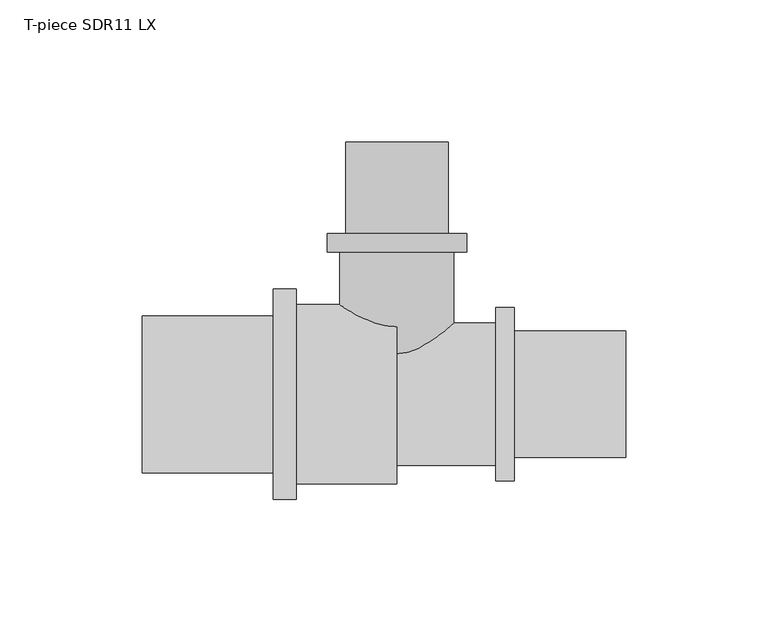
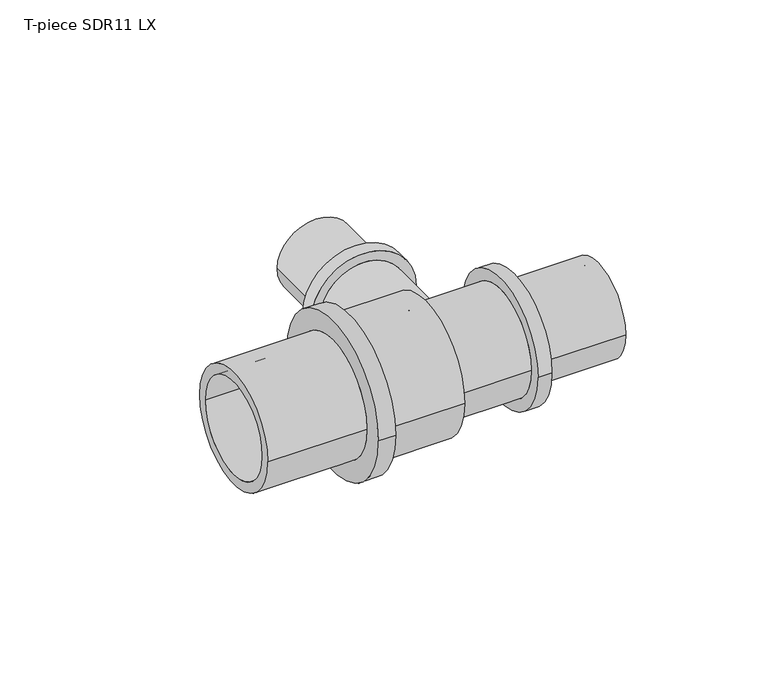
"""IFC4 building model written with IfcOpenShell, lengths in millimetres: pipe fitting geometry, T-piece SDR11 LX : T-piece LX SDR11 LX."""

from ifc_helpers import new_model, si_unit, point, frame, origin, place, context, project, spatial, polyline, circle_curve, ellipse_curve, trimmed, source, transform, mapped, element, save
from ifc_brep_helpers import plane_surface, cylinder_surface, revolved_surface, advanced_brep


def t_piece_sdr11_lx_dfdbaae2(model_context):
    return source(origin(), model_context, "Body", "AdvancedBrep", [
        advanced_brep(
        [(20.0, 1.6236803, 0.0), (-20.0, 1.6236803, 0.0), (-20.0, 50.0, 0.0), (20.0, 50.0, 0.0), (13.75, 88.5, 0.0), (-13.75, 88.5, 0.0), (-13.75, 0.0, 0.0), (13.75, 0.0, 0.0), (18.0, 56.5, 0.0), (-18.0, 56.5, 0.0), (-18.0, 88.5, 0.0), (18.0, 88.5, 0.0), (24.5, 50.0, 0.0), (-24.5, 50.0, 0.0), (-24.5, 56.5, 0.0), (24.5, 56.5, 0.0)],
        [
            (0, 1, circle_curve(frame((0.0, 1.6236803, 0.0), z_axis=(0.0, 1.0, 0.0), x_axis=(-1.0, 0.0, 0.0)), 20.0)),
            (1, 2),
            (2, 3, circle_curve(frame((0.0, 50.0, 0.0), z_axis=(0.0, -1.0, 0.0), x_axis=(-1.0, 0.0, 0.0)), 20.0)),
            (3, 0),
            (4, 5, circle_curve(frame((0.0, 88.5, 0.0), z_axis=(0.0, 1.0, 0.0), x_axis=(-1.0, 0.0, 0.0)), 13.75)),
            (5, 6),
            (6, 7, circle_curve(frame((0.0, 0.0, 0.0), z_axis=(0.0, -1.0, 0.0), x_axis=(-1.0, 0.0, 0.0)), 13.75)),
            (7, 4),
            (8, 9, circle_curve(frame((0.0, 56.5, 0.0), z_axis=(0.0, 1.0, 0.0), x_axis=(-1.0, 0.0, 0.0)), 18.0)),
            (9, 10),
            (10, 11, circle_curve(frame((0.0, 88.5, 0.0), z_axis=(0.0, -1.0, 0.0), x_axis=(-1.0, 0.0, 0.0)), 18.0)),
            (11, 8),
            (12, 13, circle_curve(frame((0.0, 50.0, 0.0), z_axis=(0.0, 1.0, 0.0), x_axis=(-1.0, 0.0, 0.0)), 24.5)),
            (13, 14),
            (14, 15, circle_curve(frame((0.0, 56.5, 0.0), z_axis=(0.0, -1.0, 0.0), x_axis=(-1.0, 0.0, 0.0)), 24.5)),
            (15, 12),
            (12, 13, circle_curve(frame((0.0, 50.0, 0.0), z_axis=(0.0, -1.0, 0.0), x_axis=(1.0, 0.0, 0.0)), 24.5)),
            (2, 3, circle_curve(frame((0.0, 50.0, 0.0), z_axis=(0.0, 1.0, 0.0), x_axis=(1.0, 0.0, 0.0)), 20.0)),
            (1, 0, circle_curve(frame((0.0, 1.6236803, 0.0), z_axis=(0.0, 1.0, 0.0), x_axis=(1.0, 0.0, 0.0)), 20.0)),
            (5, 4, circle_curve(frame((0.0, 88.5, 0.0), z_axis=(0.0, 1.0, 0.0), x_axis=(1.0, 0.0, 0.0)), 13.75)),
            (7, 6, circle_curve(frame((0.0, 0.0, 0.0), z_axis=(0.0, -1.0, 0.0), x_axis=(1.0, 0.0, 0.0)), 13.75)),
            (10, 11, circle_curve(frame((0.0, 88.5, 0.0), z_axis=(0.0, 1.0, 0.0), x_axis=(1.0, 0.0, 0.0)), 18.0)),
            (9, 8, circle_curve(frame((0.0, 56.5, 0.0), z_axis=(0.0, 1.0, 0.0), x_axis=(1.0, 0.0, 0.0)), 18.0)),
            (14, 15, circle_curve(frame((0.0, 56.5, 0.0), z_axis=(0.0, 1.0, 0.0), x_axis=(1.0, 0.0, 0.0)), 24.5)),
            (6, 1, circle_curve(frame((-8.9962802, 31.1392381, 0.0), z_axis=(0.0, 0.0, -1.0), x_axis=(0.0, -1.0, 0.0)), 31.5)),
            (0, 7, circle_curve(frame((8.9962802, 31.1392381, 0.0), z_axis=(0.0, 0.0, -1.0), x_axis=(0.0, -1.0, 0.0)), 31.5)),
        ],
        [
            cylinder_surface(frame((0.0, 0.0, 0.0), z_axis=(0.0, -1.0, 0.0), x_axis=(-1.0, 0.0, 0.0)), 20.0),
            revolved_surface(polyline([(-13.75, 0.0, 0.0), (-13.75, 88.5, 0.0)]), (0.0, 0.0, 0.0), (0.0, -1.0, 0.0)),
            cylinder_surface(frame((0.0, 0.0, 0.0), z_axis=(0.0, -1.0, 0.0), x_axis=(-1.0, 0.0, 0.0)), 18.0),
            cylinder_surface(frame((0.0, 0.0, 0.0), z_axis=(0.0, -1.0, 0.0), x_axis=(-1.0, 0.0, 0.0)), 24.5),
            plane_surface(frame((0.0, 50.0, 0.0), z_axis=(0.0, -1.0, 0.0), x_axis=(1.0, 0.0, 0.0))),
            cylinder_surface(frame((0.0, 0.0, 0.0), z_axis=(0.0, -1.0, 0.0), x_axis=(1.0, 0.0, 0.0)), 20.0),
            revolved_surface(polyline([(13.75, 0.0, 0.0), (13.75, 88.5, 0.0)]), (0.0, 0.0, 0.0), (0.0, -1.0, 0.0)),
            plane_surface(frame((0.0, 88.5, 0.0), z_axis=(0.0, 1.0, 0.0), x_axis=(1.0, 0.0, 0.0))),
            cylinder_surface(frame((0.0, 0.0, 0.0), z_axis=(0.0, -1.0, 0.0), x_axis=(1.0, 0.0, 0.0)), 18.0),
            plane_surface(frame((0.0, 56.5, 0.0), z_axis=(0.0, 1.0, 0.0), x_axis=(1.0, 0.0, 0.0))),
            cylinder_surface(frame((0.0, 0.0, 0.0), z_axis=(0.0, -1.0, 0.0), x_axis=(1.0, 0.0, 0.0)), 24.5),
            revolved_surface(trimmed(ellipse_curve(frame((-8.9962802, 31.1392381, 0.0), z_axis=(0.0, 0.0, 1.0), x_axis=(0.0, -1.0, 0.0)), 31.5, 31.5), [point((-20.0, 1.6236803, 0.0))], [point((-13.75, 0.0, 0.0))], True, "CARTESIAN"), (0.0, 0.0, 0.0), (0.0, -1.0, 0.0)),
            revolved_surface(trimmed(ellipse_curve(frame((8.9962802, 31.1392381, 0.0), z_axis=(0.0, 0.0, -1.0), x_axis=(0.0, -1.0, 0.0)), 31.5, 31.5), [point((20.0, 1.6236803, 0.0))], [point((13.75, 0.0, 0.0))], True, "CARTESIAN"), (0.0, 0.0, 0.0), (0.0, -1.0, 0.0)),
        ],
        [
            (0, [[1, 2, 3, 4]]),
            (1, [[5, 6, 7, 8]]),
            (2, [[9, 10, 11, 12]]),
            (3, [[13, 14, 15, 16]]),
            (4, [[17, -13], [18, -3]]),
            (5, [[19, -4, -18, -2]]),
            (6, [[20, -8, 21, -6]]),
            (7, [[22, -11], [-20, -5]]),
            (8, [[23, -12, -22, -10]]),
            (9, [[24, -15], [-23, -9]]),
            (10, [[-17, -16, -24, -14]]),
            (11, [[-7, 25, -1, 26]]),
            (12, [[-21, -26, -19, -25]]),
        ],
    ),
        advanced_brep(
        [(34.8, 25.0, 0.0), (34.8, -25.0, 0.0), (0.0, -25.0, 0.0), (0.0, 25.0, 0.0), (0.0, 17.75, 0.0), (0.0, -17.75, 0.0), (80.3, -17.75, 0.0), (80.3, 17.75, 0.0), (80.3, 22.15, 0.0), (80.3, -22.15, 0.0), (41.2, -22.15, 0.0), (41.2, 22.15, 0.0), (41.2, 30.5, 0.0), (41.2, -30.5, 0.0), (34.8, -30.5, 0.0), (34.8, 30.5, 0.0)],
        [
            (0, 1, circle_curve(frame((34.8, 0.0, 0.0), z_axis=(-1.0, 0.0, 0.0), x_axis=(0.0, -1.0, 0.0)), 25.0)),
            (1, 2),
            (2, 3, circle_curve(frame((0.0, 0.0, 0.0), z_axis=(1.0, 0.0, 0.0), x_axis=(0.0, -1.0, 0.0)), 25.0)),
            (3, 0),
            (4, 5, circle_curve(frame((0.0, 0.0, 0.0), z_axis=(-1.0, 0.0, 0.0), x_axis=(0.0, -1.0, 0.0)), 17.75)),
            (5, 6),
            (6, 7, circle_curve(frame((80.3, 0.0, 0.0), z_axis=(1.0, 0.0, 0.0), x_axis=(0.0, -1.0, 0.0)), 17.75)),
            (7, 4),
            (8, 9, circle_curve(frame((80.3, 0.0, 0.0), z_axis=(-1.0, 0.0, 0.0), x_axis=(0.0, -1.0, 0.0)), 22.15)),
            (9, 10),
            (10, 11, circle_curve(frame((41.2, 0.0, 0.0), z_axis=(1.0, 0.0, 0.0), x_axis=(0.0, -1.0, 0.0)), 22.15)),
            (11, 8),
            (12, 13, circle_curve(frame((41.2, 0.0, 0.0), z_axis=(-1.0, 0.0, 0.0), x_axis=(0.0, -1.0, 0.0)), 30.5)),
            (13, 14),
            (14, 15, circle_curve(frame((34.8, 0.0, 0.0), z_axis=(1.0, 0.0, 0.0), x_axis=(0.0, -1.0, 0.0)), 30.5)),
            (15, 12),
            (14, 15, circle_curve(frame((34.8, 0.0, 0.0), z_axis=(-1.0, 0.0, 0.0), x_axis=(0.0, 1.0, 0.0)), 30.5)),
            (0, 1, circle_curve(frame((34.8, 0.0, 0.0), z_axis=(1.0, 0.0, 0.0), x_axis=(0.0, 1.0, 0.0)), 25.0)),
            (3, 2, circle_curve(frame((0.0, 0.0, 0.0), z_axis=(1.0, 0.0, 0.0), x_axis=(0.0, 1.0, 0.0)), 25.0)),
            (4, 5, circle_curve(frame((0.0, 0.0, 0.0), z_axis=(1.0, 0.0, 0.0), x_axis=(0.0, 1.0, 0.0)), 17.75)),
            (7, 6, circle_curve(frame((80.3, 0.0, 0.0), z_axis=(1.0, 0.0, 0.0), x_axis=(0.0, 1.0, 0.0)), 17.75)),
            (8, 9, circle_curve(frame((80.3, 0.0, 0.0), z_axis=(1.0, 0.0, 0.0), x_axis=(0.0, 1.0, 0.0)), 22.15)),
            (11, 10, circle_curve(frame((41.2, 0.0, 0.0), z_axis=(1.0, 0.0, 0.0), x_axis=(0.0, 1.0, 0.0)), 22.15)),
            (12, 13, circle_curve(frame((41.2, 0.0, 0.0), z_axis=(1.0, 0.0, 0.0), x_axis=(0.0, 1.0, 0.0)), 30.5)),
        ],
        [
            cylinder_surface(frame((0.0, 0.0, 0.0), z_axis=(1.0, 0.0, 0.0), x_axis=(0.0, -1.0, 0.0)), 25.0),
            revolved_surface(polyline([(80.3, -17.75, 0.0), (0.0, -17.75, 0.0)]), (0.0, 0.0, 0.0), (1.0, 0.0, 0.0)),
            cylinder_surface(frame((0.0, 0.0, 0.0), z_axis=(1.0, 0.0, 0.0), x_axis=(0.0, -1.0, 0.0)), 22.15),
            cylinder_surface(frame((0.0, 0.0, 0.0), z_axis=(1.0, 0.0, 0.0), x_axis=(0.0, -1.0, 0.0)), 30.5),
            plane_surface(frame((34.8, 0.0, 0.0), z_axis=(-1.0, 0.0, 0.0), x_axis=(0.0, 1.0, 0.0))),
            cylinder_surface(frame((0.0, 0.0, 0.0), z_axis=(1.0, 0.0, 0.0), x_axis=(0.0, 1.0, 0.0)), 25.0),
            plane_surface(frame((0.0, 0.0, 0.0), z_axis=(-1.0, 0.0, 0.0), x_axis=(0.0, 1.0, 0.0))),
            revolved_surface(polyline([(80.3, 17.75, 0.0), (0.0, 17.75, 0.0)]), (0.0, 0.0, 0.0), (1.0, 0.0, 0.0)),
            plane_surface(frame((80.3, 0.0, 0.0), z_axis=(1.0, 0.0, 0.0), x_axis=(0.0, 1.0, 0.0))),
            cylinder_surface(frame((0.0, 0.0, 0.0), z_axis=(1.0, 0.0, 0.0), x_axis=(0.0, 1.0, 0.0)), 22.15),
            plane_surface(frame((41.2, 0.0, 0.0), z_axis=(1.0, 0.0, 0.0), x_axis=(0.0, 1.0, 0.0))),
            cylinder_surface(frame((0.0, 0.0, 0.0), z_axis=(1.0, 0.0, 0.0), x_axis=(0.0, 1.0, 0.0)), 30.5),
        ],
        [
            (0, [[1, 2, 3, 4]]),
            (1, [[5, 6, 7, 8]]),
            (2, [[9, 10, 11, 12]]),
            (3, [[13, 14, 15, 16]]),
            (4, [[17, -15], [18, -1]]),
            (5, [[-18, -4, 19, -2]]),
            (6, [[-19, -3], [20, -5]]),
            (7, [[-20, -8, 21, -6]]),
            (8, [[22, -9], [-21, -7]]),
            (9, [[-22, -12, 23, -10]]),
            (10, [[24, -13], [-23, -11]]),
            (11, [[-24, -16, -17, -14]]),
        ],
    ),
        advanced_brep(
        [(0.0, 31.5, 0.0), (0.0, -31.5, 0.0), (-35.3, -31.5, 0.0), (-35.3, 31.5, 0.0), (-89.3, 22.75, 0.0), (-89.3, -22.75, 0.0), (0.0, -22.75, 0.0), (0.0, 22.75, 0.0), (-43.3, 27.55, 0.0), (-43.3, -27.55, 0.0), (-89.3, -27.55, 0.0), (-89.3, 27.55, 0.0), (-35.3, 37.0, 0.0), (-35.3, -37.0, 0.0), (-43.3, -37.0, 0.0), (-43.3, 37.0, 0.0)],
        [
            (0, 1, circle_curve(frame((0.0, 0.0, 0.0), z_axis=(-1.0, 0.0, 0.0), x_axis=(0.0, -1.0, 0.0)), 31.5)),
            (1, 2),
            (2, 3, circle_curve(frame((-35.3, 0.0, 0.0), z_axis=(1.0, 0.0, 0.0), x_axis=(0.0, -1.0, 0.0)), 31.5)),
            (3, 0),
            (4, 5, circle_curve(frame((-89.3, 0.0, 0.0), z_axis=(-1.0, 0.0, 0.0), x_axis=(0.0, -1.0, 0.0)), 22.75)),
            (5, 6),
            (6, 7, circle_curve(frame((0.0, 0.0, 0.0), z_axis=(1.0, 0.0, 0.0), x_axis=(0.0, -1.0, 0.0)), 22.75)),
            (7, 4),
            (8, 9, circle_curve(frame((-43.3, 0.0, 0.0), z_axis=(-1.0, 0.0, 0.0), x_axis=(0.0, -1.0, 0.0)), 27.55)),
            (9, 10),
            (10, 11, circle_curve(frame((-89.3, 0.0, 0.0), z_axis=(1.0, 0.0, 0.0), x_axis=(0.0, -1.0, 0.0)), 27.55)),
            (11, 8),
            (12, 13, circle_curve(frame((-35.3, 0.0, 0.0), z_axis=(-1.0, 0.0, 0.0), x_axis=(0.0, -1.0, 0.0)), 37.0)),
            (13, 14),
            (14, 15, circle_curve(frame((-43.3, 0.0, 0.0), z_axis=(1.0, 0.0, 0.0), x_axis=(0.0, -1.0, 0.0)), 37.0)),
            (15, 12),
            (12, 13, circle_curve(frame((-35.3, 0.0, 0.0), z_axis=(1.0, 0.0, 0.0), x_axis=(0.0, 1.0, 0.0)), 37.0)),
            (2, 3, circle_curve(frame((-35.3, 0.0, 0.0), z_axis=(-1.0, 0.0, 0.0), x_axis=(0.0, 1.0, 0.0)), 31.5)),
            (1, 0, circle_curve(frame((0.0, 0.0, 0.0), z_axis=(-1.0, 0.0, 0.0), x_axis=(0.0, 1.0, 0.0)), 31.5)),
            (6, 7, circle_curve(frame((0.0, 0.0, 0.0), z_axis=(-1.0, 0.0, 0.0), x_axis=(0.0, 1.0, 0.0)), 22.75)),
            (5, 4, circle_curve(frame((-89.3, 0.0, 0.0), z_axis=(-1.0, 0.0, 0.0), x_axis=(0.0, 1.0, 0.0)), 22.75)),
            (10, 11, circle_curve(frame((-89.3, 0.0, 0.0), z_axis=(-1.0, 0.0, 0.0), x_axis=(0.0, 1.0, 0.0)), 27.55)),
            (9, 8, circle_curve(frame((-43.3, 0.0, 0.0), z_axis=(-1.0, 0.0, 0.0), x_axis=(0.0, 1.0, 0.0)), 27.55)),
            (14, 15, circle_curve(frame((-43.3, 0.0, 0.0), z_axis=(-1.0, 0.0, 0.0), x_axis=(0.0, 1.0, 0.0)), 37.0)),
        ],
        [
            cylinder_surface(frame((0.0, 0.0, 0.0), z_axis=(1.0, 0.0, 0.0), x_axis=(0.0, -1.0, 0.0)), 31.5),
            revolved_surface(polyline([(0.0, -22.75, 0.0), (-89.3, -22.75, 0.0)]), (0.0, 0.0, 0.0), (1.0, 0.0, 0.0)),
            cylinder_surface(frame((0.0, 0.0, 0.0), z_axis=(1.0, 0.0, 0.0), x_axis=(0.0, -1.0, 0.0)), 27.55),
            cylinder_surface(frame((0.0, 0.0, 0.0), z_axis=(1.0, 0.0, 0.0), x_axis=(0.0, -1.0, 0.0)), 37.0),
            plane_surface(frame((-35.3, 0.0, 0.0), z_axis=(1.0, 0.0, 0.0), x_axis=(0.0, 1.0, 0.0))),
            cylinder_surface(frame((0.0, 0.0, 0.0), z_axis=(1.0, 0.0, 0.0), x_axis=(0.0, 1.0, 0.0)), 31.5),
            plane_surface(frame((0.0, 0.0, 0.0), z_axis=(1.0, 0.0, 0.0), x_axis=(0.0, 1.0, 0.0))),
            revolved_surface(polyline([(0.0, 22.75, 0.0), (-89.3, 22.75, 0.0)]), (0.0, 0.0, 0.0), (1.0, 0.0, 0.0)),
            plane_surface(frame((-89.3, 0.0, 0.0), z_axis=(-1.0, 0.0, 0.0), x_axis=(0.0, 1.0, 0.0))),
            cylinder_surface(frame((0.0, 0.0, 0.0), z_axis=(1.0, 0.0, 0.0), x_axis=(0.0, 1.0, 0.0)), 27.55),
            plane_surface(frame((-43.3, 0.0, 0.0), z_axis=(-1.0, 0.0, 0.0), x_axis=(0.0, 1.0, 0.0))),
            cylinder_surface(frame((0.0, 0.0, 0.0), z_axis=(1.0, 0.0, 0.0), x_axis=(0.0, 1.0, 0.0)), 37.0),
        ],
        [
            (0, [[1, 2, 3, 4]]),
            (1, [[5, 6, 7, 8]]),
            (2, [[9, 10, 11, 12]]),
            (3, [[13, 14, 15, 16]]),
            (4, [[17, -13], [18, -3]]),
            (5, [[19, -4, -18, -2]]),
            (6, [[-19, -1], [20, -7]]),
            (7, [[21, -8, -20, -6]]),
            (8, [[22, -11], [-21, -5]]),
            (9, [[23, -12, -22, -10]]),
            (10, [[24, -15], [-23, -9]]),
            (11, [[-17, -16, -24, -14]]),
        ],
    ),
    ])


if __name__ == "__main__":
    model = new_model("IFC4")
    model_context = context("Model", 3, world=origin())
    ifc_project = project(units=[si_unit("LENGTHUNIT", "METRE", prefix="MILLI")], contexts=[model_context])
    site = spatial("IfcSite", under=ifc_project)
    building = spatial("IfcBuilding", under=site)
    placement = place(None, origin())
    t_piece_sdr11_lx_shape = t_piece_sdr11_lx_dfdbaae2(model_context)
    element("IfcPipeFitting", 1, ObjectType="T-piece SDR11 LX : T-piece LX SDR11 LX", at=placement, inside=building, context=model_context, shape_type="MappedRepresentation", body=[
        mapped(t_piece_sdr11_lx_shape, transform((0.0, 0.0, 0.0), x_axis=(1.0, 0.0, 0.0), y_axis=(0.0, 1.0, 0.0), z_axis=(0.0, 0.0, 1.0))),
    ])
    save(model, "model.ifc")
